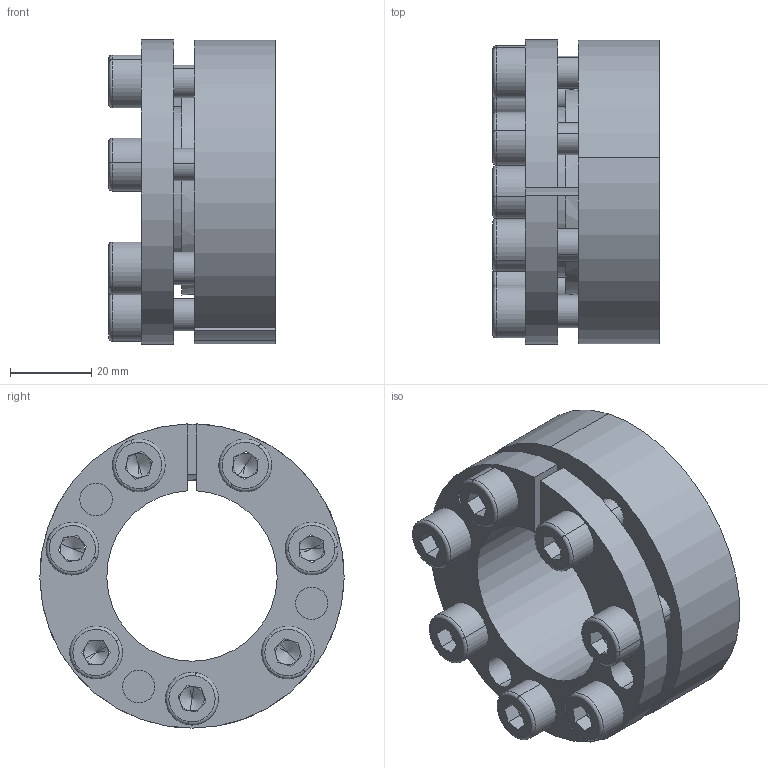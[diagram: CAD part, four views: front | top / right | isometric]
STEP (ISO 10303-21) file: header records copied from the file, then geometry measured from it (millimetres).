
FILE_DESCRIPTION (( 'STEP AP203' ), '1' );
FILE_NAME ('D2-42-75.STEP', '2017-10-12T04:17:28', ( 'MYCOM' ), ( '' ), 'SwSTEP 2.0', 'SolidWorks 2015', '' );
FILE_SCHEMA (( 'CONFIG_CONTROL_DESIGN' ));
Length unit declared in the file: millimetre
Products named in the file (1): D2-42-75
Bounding box: 41 x 74.99 x 74.99 mm (x, y, z)
Surface area: 40002.8 mm2 (no closed solid volume)
Topology: 0 solids, 16 shells, 194 faces, 504 edges, 305 vertices
Faces by surface type: plane 92, cylinder 70, cone 18, torus 14
Entity records: 5933 total; most frequent: DIRECTION 1092, CARTESIAN_POINT 1011, ORIENTED_EDGE 910, EDGE_CURVE 490, AXIS2_PLACEMENT_3D 411, VERTEX_POINT 305, LINE 270, VECTOR 270
